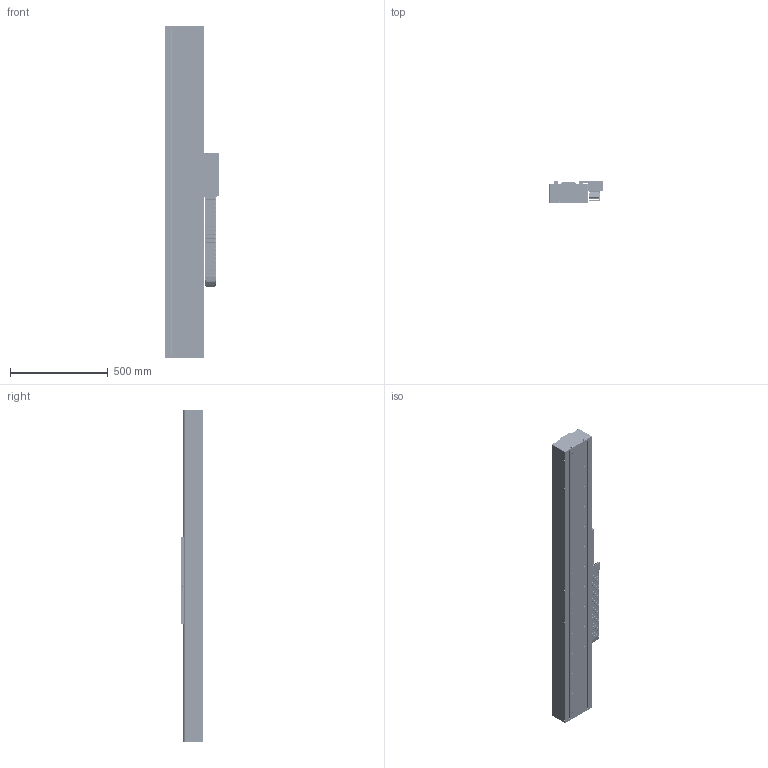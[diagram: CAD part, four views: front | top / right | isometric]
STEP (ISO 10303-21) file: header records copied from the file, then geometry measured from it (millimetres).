
FILE_DESCRIPTION (( 'STEP AP203' ), '1' );
FILE_NAME ('STF50380H-xC1B-Bxx.STEP', '2007-10-29T15:00:09', ( 'Yaskawa' ), ( 'Yaskawa' ), 'SwSTEP 2.0', 'SolidWorks 2007', '' );
FILE_SCHEMA (( 'CONFIG_CONTROL_DESIGN' ));
Products named in the file (62): 07.50.038.0_27; 07.50.038.0_28; 07.50.038.0_21; 07.50.038.0_22; 07.50.038.0_25; 07.50.038.0_26; 07.50.038.0_29; 07.50.038.0_30; 07.50.038.0_33; 07.50.038.0_36; 07.50.038.0_37; 07.50.038.0_38; 07.50.038.0_39; 07.50.038.0_43; 07.50.038.0_44; 07.50.038.0_45; 07.50.038.0_46; 07.50.038.0_31; STF50-007 End Stop; Large Bumper; SSR20 Rail 820_1600; STF50-003 Renishaw Encoder Bracket; RGH22B; STCM-002-R2 Cable Assembly Front; STCM-003 Cable Assembly Bottom; B18.3.1M - 6 x 1.0 x 25 Hex SHCS -- 25NHX_B18.3.1M - 6 x 1.0 x 25 Hex SHCS -- 25NHX; B18.3.1M - 5 x 0.8 x 12 Hex SHCS -- 12NHX_B18.3.1M - 5 x 0.8 x 12 Hex SHCS -- 12NHX; B18.3.4M - 3 x 0.5 x 12 SBHCS --N_B18.3.4M - 3 x 0.5 x 12 SBHCS --N; STCM-007 Lower E-Chain Bracket; STF50200J; 07.50.038.0_20; 07.50.038.0_23; 07.50.038.0_24; 07.50.038.0_34; 07.50.038.0_40; 07.50.038.0_35; 07.50.038.0_47; 07.50.038.0_42; 07.50.038.0_41; 07.50.038.0_32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
Assembly tree (144 placements, depth 4):
  STF50380H-xC1B-Bxx
    STF50 Large End Stop  x4
      STF50-007 End Stop
      Large Bumper
    STF50-006 Endplate  x2
    SSR20 Rail 820_1600  x2
    STF50-10-03 Side COver_J  x2
    STF50-009-03 Top Cover_J
    STF50-380 Complete Carriage
      RGH22B
      STF50-001B F50-380 Carriage
      B18.3.1M - 5 x 0.8 x 12 Hex SHCS -- 12NHX_B18.3.1M - 5 x 0.8 x 12 Hex SHCS -- 12NHX  x34
      B18.3.1M - 6 x 1.0 x 25 Hex SHCS -- 25NHX_B18.3.1M - 6 x 1.0 x 25 Hex SHCS -- 25NHX  x10
      B18.3.4M - 3 x 0.5 x 12 SBHCS --N_B18.3.4M - 3 x 0.5 x 12 SBHCS --N  x3
      STF50-005-R2 Cable Router
      STF50-003 Renishaw Encoder Bracket
      SSR20W Block  x6
      STCM-R1
        STCM-004 Cable Assembly Side
        STCM-001-R2 Cable Bracket
        STCM-005-R1 Cable Assembly Cover
        Serial Converter
        STCM-003 Cable Assembly Bottom
        STCM-006-R1 Upper E-chain Bracket
        STCM-002-R2 Cable Assembly Front
      B18.3.5M - 3 x 0.5 x 12 Socket FCHS  -- 12N_B18.3.5M - 3 x 0.5 x 12 Socket FCHS  -- 12N  x6
      STF50-0028-R1 F50-380 Carriage Horn  x2
      STF50-004 Flag
      SGLFW-50A380AP
    STCM-007 Lower E-Chain Bracket
    SGLFM-50945AC
    SGLFM-50675AC
    STF50200J
      07.50.038.0_38
      07.50.038.0_35
      07.50.038.0_32  x13
      07.50.038.0_46
      07.50.038.0_28
      07.50.038.0_21
      07.50.038.0_43
      07.50.038.0_31  x11
      07.50.038.0_37
      07.50.038.0_41
      07.50.038.0_47
      07.50.038.0_45
      07.50.038.0_20
      07.50.038.0_29
      07.50.038.0_42
      07.50.038.0_22
      07.50.038.0_30
      07.50.038.0_24
      07.50.038.0_33
      07.50.038.0_36
      07.50.038.0_39
      07.50.038.0_40
      07.50.038.0_27
      07.50.038.0_23
      07.50.038.0_26
      07.50.038.0_44
      07.50.038.0_34
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Bounding box: 272.91 x 115.5 x 1699.05 mm (x, y, z)
Volume: 15850405 mm3; surface area: 4214145.4 mm2
Topology: 191 solids, 191 shells, 8346 faces, 21340 edges, 13449 vertices
Faces by surface type: plane 4250, cylinder 3160, cone 808, torus 114, bspline 8, sphere 6
Entity records: 154052 total; most frequent: DIRECTION 25982, CARTESIAN_POINT 25214, ORIENTED_EDGE 23952, EDGE_CURVE 11976, AXIS2_PLACEMENT_3D 9180, VERTEX_POINT 7838, LINE 7622, VECTOR 7622
